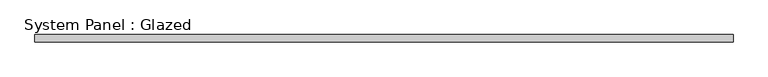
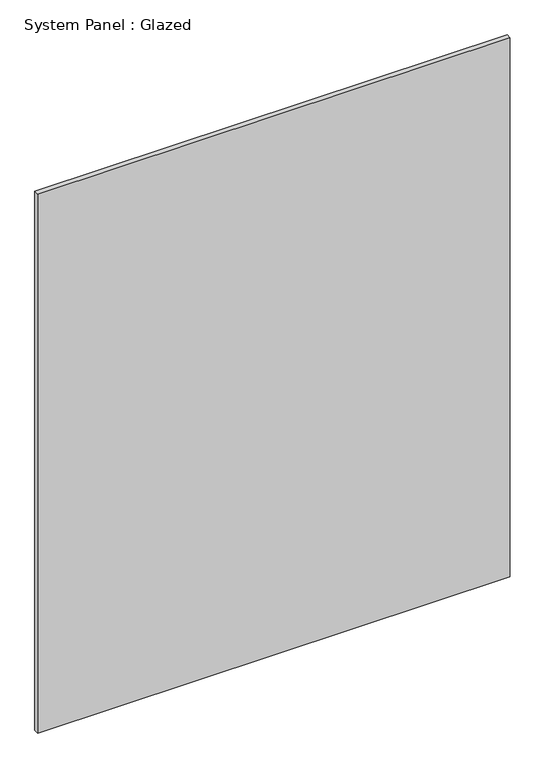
"""IFC4 building model written with IfcOpenShell, lengths in millimetres: plate geometry, System Panel : Glazed."""

from ifc_helpers import new_model, si_unit, origin, origin_with_axes, place, context, project, spatial, polyline, outline, extrude, source, transform, mapped, element, save


def system_panel_glazed_d42ca814(model_context):
    return source(origin(), model_context, "Body", "SweptSolid", [
        extrude(outline(polyline([(1238.2499999, -44.45), (-1238.2499999, -44.45), (-1238.2499999, -19.05), (1238.2499999, -19.05), (1238.2499999, -44.45)])), origin_with_axes(), (0.0, 0.0, 1.0), 2984.5),
    ])


if __name__ == "__main__":
    model = new_model("IFC4")
    model_context = context("Model", 3, world=origin())
    ifc_project = project(units=[si_unit("LENGTHUNIT", "METRE", prefix="MILLI")], contexts=[model_context])
    site = spatial("IfcSite", under=ifc_project)
    building = spatial("IfcBuilding", under=site)
    placement = place(None, origin())
    system_panel_glazed_shape = system_panel_glazed_d42ca814(model_context)
    element("IfcPlate", 1, ObjectType="System Panel : Glazed", at=placement, inside=building, context=model_context, shape_type="MappedRepresentation", body=[
        mapped(system_panel_glazed_shape, transform((0.0, 0.0, 0.0), x_axis=(1.0, 0.0, 0.0), y_axis=(0.0, 1.0, 0.0), z_axis=(0.0, 0.0, 1.0))),
    ])
    save(model, "model.ifc")
